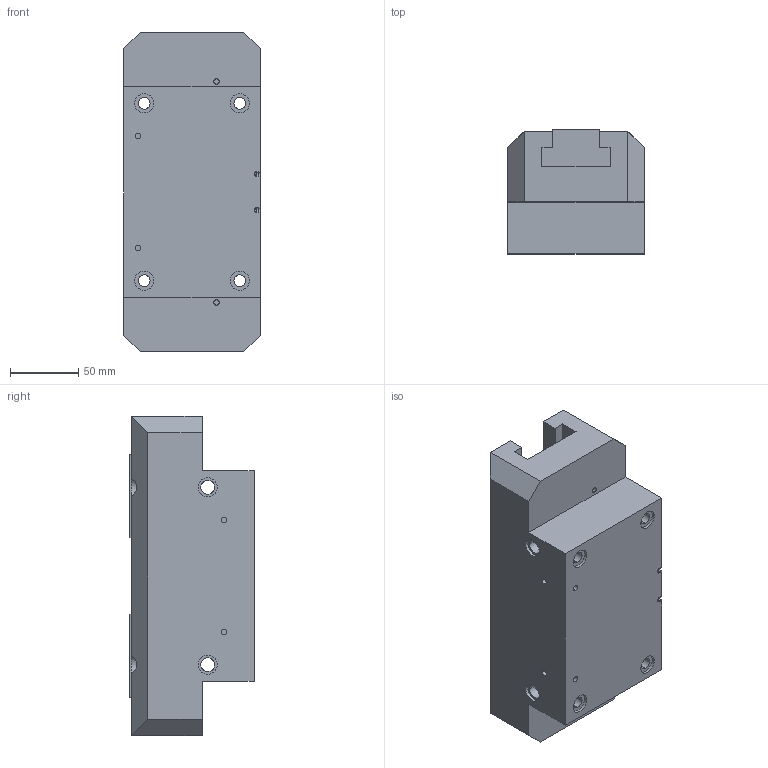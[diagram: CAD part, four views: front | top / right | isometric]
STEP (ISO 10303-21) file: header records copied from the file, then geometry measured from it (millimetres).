
FILE_DESCRIPTION (( 'STEP AP203' ), '1' );
FILE_NAME ('dh8750.STEP', '2011-08-03T09:19:58', ( 'Stefano' ), ( 'Gimatic' ), 'SwSTEP 2.0', 'SolidWorks 2010', '' );
FILE_SCHEMA (( 'CONFIG_CONTROL_DESIGN' ));
Length unit declared in the file: millimetre
Products named in the file (3): dh87_griffa; dh87_corpo; dh8750
Assembly tree (3 placements, depth 2):
  dh8750
    dh87_griffa  x2
    dh87_corpo
Bounding box: 100 x 91 x 234 mm (x, y, z)
Volume: 1619924.6 mm3; surface area: 170969.9 mm2
Topology: 3 solids, 3 shells, 192 faces, 492 edges, 312 vertices
Faces by surface type: cylinder 90, plane 90, cone 8, sphere 4
Entity records: 6059 total; most frequent: CARTESIAN_POINT 1584, DIRECTION 890, ORIENTED_EDGE 844, EDGE_CURVE 422, AXIS2_PLACEMENT_3D 324, VERTEX_POINT 274, VECTOR 242, LINE 242
